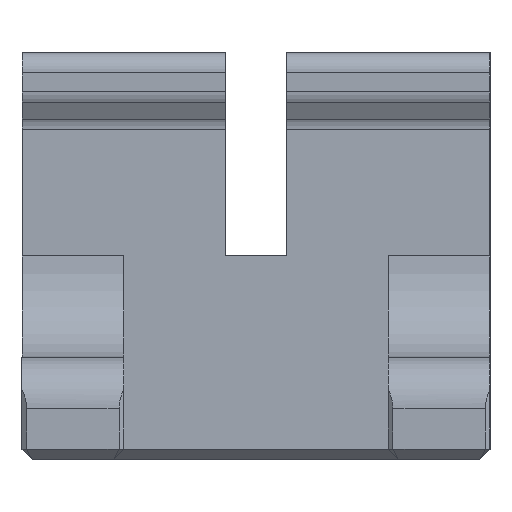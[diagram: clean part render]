
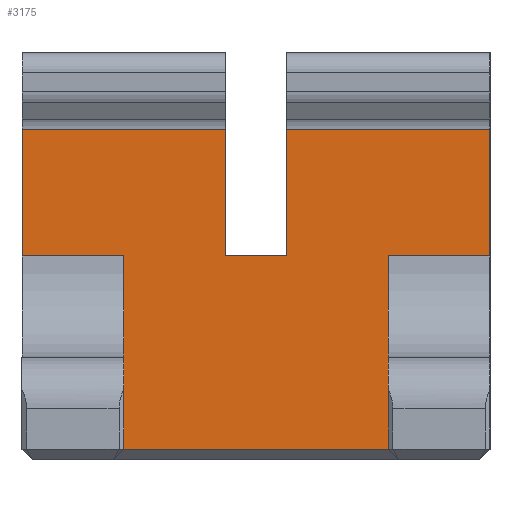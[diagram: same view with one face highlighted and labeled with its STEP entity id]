
A CAD part, left-side view. The second image highlights one B-rep face of the part: STEP entity #3175.
In plain terms, the highlighted planar face has unit normal (-1, 0, 0).
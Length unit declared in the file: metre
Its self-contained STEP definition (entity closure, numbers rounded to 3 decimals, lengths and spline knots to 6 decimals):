
#196=ORIENTED_EDGE('',*,*,#1126,.F.);
#197=ORIENTED_EDGE('',*,*,#1127,.T.);
#198=ORIENTED_EDGE('',*,*,#1128,.T.);
#199=ORIENTED_EDGE('',*,*,#1129,.T.);
#200=ORIENTED_EDGE('',*,*,#1130,.F.);
#201=ORIENTED_EDGE('',*,*,#1131,.T.);
#202=ORIENTED_EDGE('',*,*,#1097,.T.);
#203=ORIENTED_EDGE('',*,*,#1091,.F.);
#204=ORIENTED_EDGE('',*,*,#1109,.F.);
#205=ORIENTED_EDGE('',*,*,#1132,.T.);
#206=ORIENTED_EDGE('',*,*,#1057,.T.);
#207=ORIENTED_EDGE('',*,*,#1133,.T.);
#1057=EDGE_CURVE('',#1524,#1523,#1809,.T.);
#1091=EDGE_CURVE('',#1557,#1554,#1835,.T.);
#1097=EDGE_CURVE('',#1563,#1554,#1841,.T.);
#1109=EDGE_CURVE('',#1573,#1557,#1847,.T.);
#1126=EDGE_CURVE('',#1590,#1591,#1864,.T.);
#1127=EDGE_CURVE('',#1590,#1592,#1865,.T.);
#1128=EDGE_CURVE('',#1592,#1593,#1866,.T.);
#1129=EDGE_CURVE('',#1593,#1594,#1867,.F.);
#1130=EDGE_CURVE('',#1595,#1594,#1868,.T.);
#1131=EDGE_CURVE('',#1595,#1563,#1869,.F.);
#1132=EDGE_CURVE('',#1573,#1524,#1870,.T.);
#1133=EDGE_CURVE('',#1523,#1591,#1871,.T.);
#1523=VERTEX_POINT('',#4581);
#1524=VERTEX_POINT('',#4583);
#1554=VERTEX_POINT('',#4645);
#1557=VERTEX_POINT('',#4650);
#1563=VERTEX_POINT('',#4665);
#1573=VERTEX_POINT('',#4687);
#1590=VERTEX_POINT('',#4725);
#1591=VERTEX_POINT('',#4726);
#1592=VERTEX_POINT('',#4728);
#1593=VERTEX_POINT('',#4730);
#1594=VERTEX_POINT('',#4732);
#1595=VERTEX_POINT('',#4734);
#1809=LINE('',#4582,#2203);
#1835=LINE('',#4651,#2229);
#1841=LINE('',#4664,#2235);
#1847=LINE('',#4688,#2241);
#1864=LINE('',#4724,#2258);
#1865=LINE('',#4727,#2259);
#1866=LINE('',#4729,#2260);
#1867=LINE('',#4731,#2261);
#1868=LINE('',#4733,#2262);
#1869=LINE('',#4735,#2263);
#1870=LINE('',#4736,#2264);
#1871=LINE('',#4737,#2265);
#2203=VECTOR('',#3652,1.);
#2229=VECTOR('',#3696,1.);
#2235=VECTOR('',#3706,1.);
#2241=VECTOR('',#3726,1.);
#2258=VECTOR('',#3749,1.);
#2259=VECTOR('',#3750,1.);
#2260=VECTOR('',#3751,1.);
#2261=VECTOR('',#3752,1.);
#2262=VECTOR('',#3753,1.);
#2263=VECTOR('',#3754,1.);
#2264=VECTOR('',#3755,1.);
#2265=VECTOR('',#3756,1.);
#2601=EDGE_LOOP('',(#196,#197,#198,#199,#200,#201,#202,#203,#204,#205,#206,
#207));
#2805=FACE_BOUND('',#2601,.T.);
#3013=PLANE('',#3398);
#3175=ADVANCED_FACE('',(#2805),#3013,.F.);
#3398=AXIS2_PLACEMENT_3D('',#4723,#3747,#3748);
#3652=DIRECTION('',(0.,0.,-1.));
#3696=DIRECTION('',(0.,-1.,0.));
#3706=DIRECTION('',(0.,0.,-1.));
#3726=DIRECTION('',(0.,0.,-1.));
#3747=DIRECTION('',(1.,0.,0.));
#3748=DIRECTION('',(0.,0.,-1.));
#3749=DIRECTION('',(0.,0.,1.));
#3750=DIRECTION('',(0.,-1.,0.));
#3751=DIRECTION('',(0.,0.,1.));
#3752=DIRECTION('',(0.,1.,0.));
#3753=DIRECTION('',(0.,0.,-1.));
#3754=DIRECTION('',(0.,-1.,0.));
#3755=DIRECTION('',(0.,1.,0.));
#3756=DIRECTION('',(0.,-1.,0.));
#4581=CARTESIAN_POINT('',(-0.0465,0.023,0.02));
#4582=CARTESIAN_POINT('',(-0.0465,0.023,0.005));
#4583=CARTESIAN_POINT('',(-0.0465,0.023,0.032464));
#4645=CARTESIAN_POINT('',(-0.0465,-0.003,0.02));
#4650=CARTESIAN_POINT('',(-0.0465,0.003,0.02));
#4651=CARTESIAN_POINT('',(-0.0465,0.,0.02));
#4664=CARTESIAN_POINT('',(-0.0465,-0.003,0.0265));
#4665=CARTESIAN_POINT('',(-0.0465,-0.003,0.032464));
#4687=CARTESIAN_POINT('',(-0.0465,0.003,0.032464));
#4688=CARTESIAN_POINT('',(-0.0465,0.003,0.0265));
#4723=CARTESIAN_POINT('',(-0.0465,0.,0.005));
#4724=CARTESIAN_POINT('',(-0.0465,0.013,0.005));
#4725=CARTESIAN_POINT('',(-0.0465,0.013,0.001));
#4726=CARTESIAN_POINT('',(-0.0465,0.013,0.02));
#4727=CARTESIAN_POINT('',(-0.0465,0.,0.001));
#4728=CARTESIAN_POINT('',(-0.0465,-0.013,0.001));
#4729=CARTESIAN_POINT('',(-0.0465,-0.013,0.005));
#4730=CARTESIAN_POINT('',(-0.0465,-0.013,0.02));
#4731=CARTESIAN_POINT('',(-0.0465,-0.023,0.02));
#4732=CARTESIAN_POINT('',(-0.0465,-0.023,0.02));
#4733=CARTESIAN_POINT('',(-0.0465,-0.023,0.005));
#4734=CARTESIAN_POINT('',(-0.0465,-0.023,0.032464));
#4735=CARTESIAN_POINT('',(-0.0465,0.,0.032464));
#4736=CARTESIAN_POINT('',(-0.0465,0.023,0.032464));
#4737=CARTESIAN_POINT('',(-0.0465,0.,0.02));
